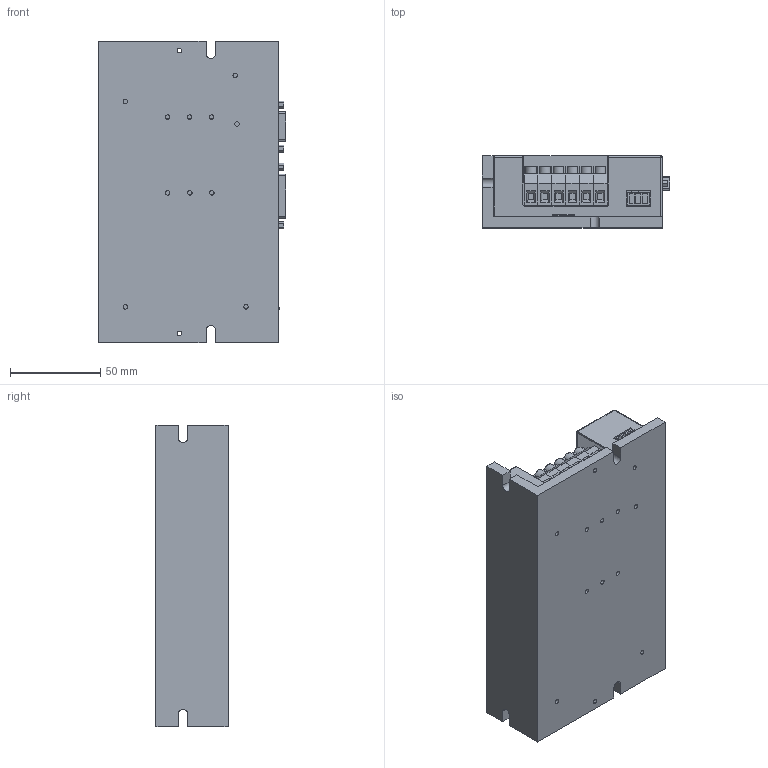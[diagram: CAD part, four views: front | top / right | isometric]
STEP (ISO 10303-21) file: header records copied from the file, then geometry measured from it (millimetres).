
FILE_DESCRIPTION((''),'2;1');
FILE_NAME('ASM0001_ASM','2019-12-02T',('shen'),(''),'PRO/ENGINEER BY PARAMETRIC TECHNOLOGY CORPORATION, 2011310','PRO/ENGINEER BY PARAMETRIC TECHNOLOGY CORPORATION, 2011310','');
FILE_SCHEMA(('CONFIG_CONTROL_DESIGN'));
Length unit declared in the file: millimetre
Products named in the file (20): 3060LVSANREQI; DYAGONGLIBAN; DIANRONG222; MOS-1; 6-1PIN; 3PIN; DIYAGONGLIBAN_ASM; DIYAKONGZHIBAN; DB9WAN; DB26WAN; LED2; PIN-1; 40PIN-1_ASM; DCDC; 4PINKAIGUAN; DUANZI111; LAN; KONGZHIBAN_ASM; 3060WAIZHAO; ASM0001_ASM
Assembly tree (73 placements, depth 4):
  ASM0001_ASM
    3060LVSANREQI
    DIYAGONGLIBAN_ASM
      DYAGONGLIBAN
      DIANRONG222  x6
      MOS-1  x6
      6-1PIN  x6
      3PIN
    KONGZHIBAN_ASM
      DIYAKONGZHIBAN
      DB9WAN
      DB26WAN
      LED2
      40PIN-1_ASM
        PIN-1  x40
      DCDC
      4PINKAIGUAN
      DUANZI111
      LAN
    3060WAIZHAO
Bounding box: 104 x 40 x 167.5 mm (x, y, z)
Volume: 232595.2 mm3; surface area: 170058.6 mm2
Topology: 70 solids, 70 shells, 2041 faces, 5002 edges, 3316 vertices
Faces by surface type: plane 1590, cylinder 433, torus 12, sphere 6
Entity records: 25630 total; most frequent: DIRECTION 4450, CARTESIAN_POINT 4407, ORIENTED_EDGE 4092, EDGE_CURVE 2046, VECTOR 1596, LINE 1596, AXIS2_PLACEMENT_3D 1427, VERTEX_POINT 1358
